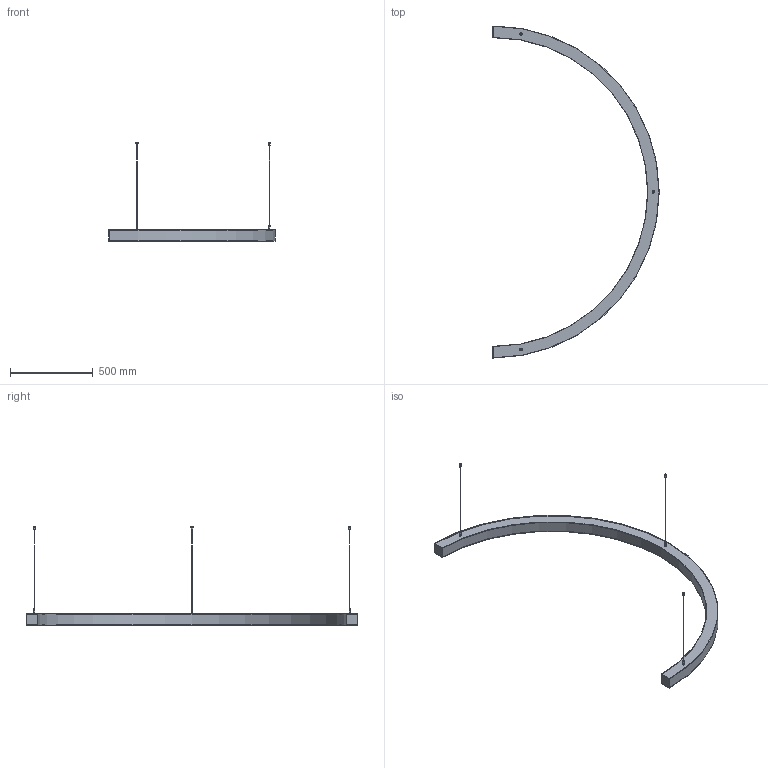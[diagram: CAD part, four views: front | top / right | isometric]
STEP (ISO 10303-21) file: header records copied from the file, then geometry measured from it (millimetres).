
FILE_DESCRIPTION(('STEP AP203'), '1');
FILE_NAME('Half RING 2000mm', '', ('UNSPECIFIED'), ('UNSPECIFIED'), 'C3D Converter', 'C3D Toolkit', '');
FILE_SCHEMA(('CONFIG_CONTROL_DESIGN'));
Length unit declared in the file: millimetre
Assembly tree (13 placements, depth 4):
  (unnamed)
    (unnamed)
    (unnamed)
    (unnamed)
    (unnamed)  x2
    (unnamed)  x3
      (unnamed)
        (unnamed)
        (unnamed)
      (unnamed)
      (unnamed)
Bounding box: 1002.5 x 2000 x 593 mm (x, y, z)
Volume: 1357318.5 mm3; surface area: 1840321.8 mm2
Topology: 18 solids, 18 shells, 163 faces, 315 edges, 209 vertices
Faces by surface type: plane 111, cylinder 49, cone 3
Full cylindrical faces by diameter (mm): 2 x3, 2.5 x3, 4 x3, 4.5 x3, 4.7 x3, 5 x6, 6 x3, 8.8 x3, 9 x6, 11 x3, 15 x3
Entity records: 2699 total; most frequent: DIRECTION 380, CARTESIAN_POINT 333, ORIENTED_EDGE 278, AXIS2_PLACEMENT_3D 150, EDGE_CURVE 139, EDGE_LOOP 108, VERTEX_POINT 103, LINE 80
